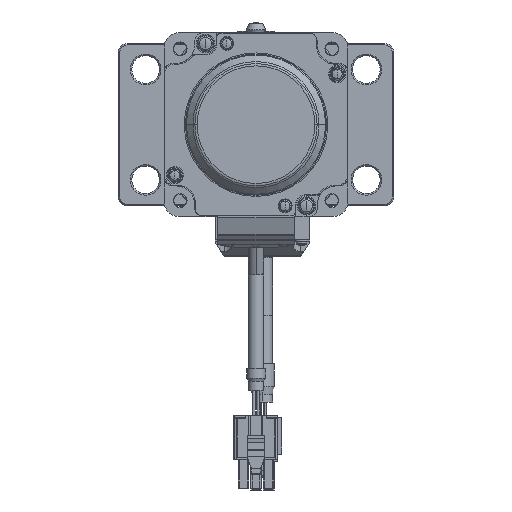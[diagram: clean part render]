
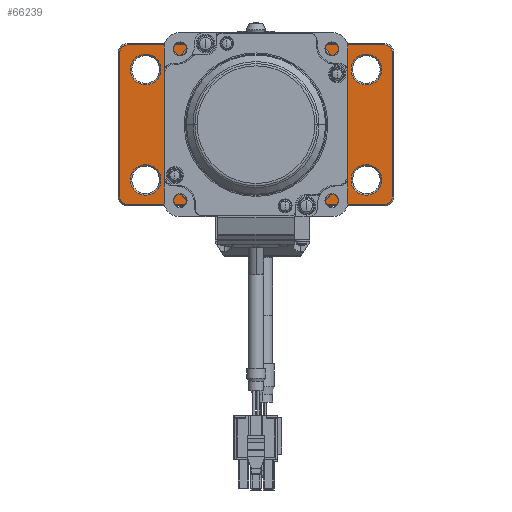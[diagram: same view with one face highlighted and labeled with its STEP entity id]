
A CAD part, front view. The second image highlights one B-rep face of the part: STEP entity #66239.
In plain terms, the highlighted planar face has unit normal (0, -1, 0).
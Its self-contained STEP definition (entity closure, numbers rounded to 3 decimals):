
#64906=CARTESIAN_POINT('',(0.,-5.,0.));
#64907=DIRECTION('',(0.,1.,0.));
#64908=DIRECTION('',(-1.,0.,0.));
#64909=AXIS2_PLACEMENT_3D('',#64906,#64907,#64908);
#64911=CARTESIAN_POINT('',(0.,-5.,0.));
#64912=DIRECTION('',(0.,1.,0.));
#64913=DIRECTION('',(1.,0.,0.));
#64914=AXIS2_PLACEMENT_3D('',#64911,#64912,#64913);
#64916=CARTESIAN_POINT('',(-36.,-5.,18.));
#64917=DIRECTION('',(0.,1.,0.));
#64918=DIRECTION('',(1.,0.,0.));
#64919=AXIS2_PLACEMENT_3D('',#64916,#64917,#64918);
#64921=CARTESIAN_POINT('',(-36.,-5.,18.));
#64922=DIRECTION('',(0.,1.,0.));
#64923=DIRECTION('',(-1.,0.,0.));
#64924=AXIS2_PLACEMENT_3D('',#64921,#64922,#64923);
#64926=CARTESIAN_POINT('',(36.,-5.,18.));
#64927=DIRECTION('',(0.,1.,0.));
#64928=DIRECTION('',(1.,0.,0.));
#64929=AXIS2_PLACEMENT_3D('',#64926,#64927,#64928);
#64931=CARTESIAN_POINT('',(36.,-5.,18.));
#64932=DIRECTION('',(0.,1.,0.));
#64933=DIRECTION('',(-1.,0.,0.));
#64934=AXIS2_PLACEMENT_3D('',#64931,#64932,#64933);
#64936=CARTESIAN_POINT('',(36.,-5.,-18.));
#64937=DIRECTION('',(0.,1.,0.));
#64938=DIRECTION('',(1.,0.,0.));
#64939=AXIS2_PLACEMENT_3D('',#64936,#64937,#64938);
#64941=CARTESIAN_POINT('',(36.,-5.,-18.));
#64942=DIRECTION('',(0.,1.,0.));
#64943=DIRECTION('',(-1.,0.,0.));
#64944=AXIS2_PLACEMENT_3D('',#64941,#64942,#64943);
#64946=CARTESIAN_POINT('',(-36.,-5.,-18.));
#64947=DIRECTION('',(0.,1.,0.));
#64948=DIRECTION('',(1.,0.,0.));
#64949=AXIS2_PLACEMENT_3D('',#64946,#64947,#64948);
#64951=CARTESIAN_POINT('',(-36.,-5.,-18.));
#64952=DIRECTION('',(0.,1.,0.));
#64953=DIRECTION('',(-1.,0.,0.));
#64954=AXIS2_PLACEMENT_3D('',#64951,#64952,#64953);
#64956=CARTESIAN_POINT('',(-42.,-5.,23.5));
#64957=DIRECTION('',(0.,-1.,0.));
#64958=DIRECTION('',(0.,0.,1.));
#64959=AXIS2_PLACEMENT_3D('',#64956,#64957,#64958);
#64961=DIRECTION('',(-1.,0.,0.));
#64962=VECTOR('',#64961,84.);
#64963=CARTESIAN_POINT('',(42.,-5.,
26.));
#64964=LINE('',#64963,#64962);
#64965=CARTESIAN_POINT('',(42.,-5.,23.5));
#64966=DIRECTION('',(0.,-1.,0.));
#64967=DIRECTION('',(1.,0.,0.));
#64968=AXIS2_PLACEMENT_3D('',#64965,#64966,#64967);
#64970=DIRECTION('',(0.,0.,1.));
#64971=VECTOR('',#64970,47.);
#64972=CARTESIAN_POINT('',(44.5,-5.,
-23.5));
#64973=LINE('',#64972,#64971);
#64974=CARTESIAN_POINT('',(42.,-5.,-23.5));
#64975=DIRECTION('',(0.,-1.,0.));
#64976=DIRECTION('',(0.,0.,-1.));
#64977=AXIS2_PLACEMENT_3D('',#64974,#64975,#64976);
#64979=DIRECTION('',(1.,0.,0.));
#64980=VECTOR('',#64979,84.);
#64981=CARTESIAN_POINT('',(-42.,-5.,
-26.));
#64982=LINE('',#64981,#64980);
#64983=CARTESIAN_POINT('',(-42.,-5.,-23.5));
#64984=DIRECTION('',(0.,-1.,0.));
#64985=DIRECTION('',(-1.,0.,0.));
#64986=AXIS2_PLACEMENT_3D('',#64983,#64984,#64985);
#64988=DIRECTION('',(0.,0.,-1.));
#64989=VECTOR('',#64988,47.);
#64990=CARTESIAN_POINT('',(-44.5,-5.,
23.5));
#64991=LINE('',#64990,#64989);
#64992=CARTESIAN_POINT('',(19.,-5.,-19.));
#64993=DIRECTION('',(0.,1.,0.));
#64994=DIRECTION('',(1.,0.,0.));
#64995=AXIS2_PLACEMENT_3D('',#64992,#64993,#64994);
#64997=CARTESIAN_POINT('',(19.,-5.,-19.));
#64998=DIRECTION('',(0.,1.,0.));
#64999=DIRECTION('',(-1.,0.,0.));
#65000=AXIS2_PLACEMENT_3D('',#64997,#64998,#64999);
#65002=CARTESIAN_POINT('',(-19.,-5.,-19.));
#65003=DIRECTION('',(0.,1.,0.));
#65004=DIRECTION('',(1.,0.,0.));
#65005=AXIS2_PLACEMENT_3D('',#65002,#65003,#65004);
#65007=CARTESIAN_POINT('',(-19.,-5.,-19.));
#65008=DIRECTION('',(0.,1.,0.));
#65009=DIRECTION('',(-1.,0.,0.));
#65010=AXIS2_PLACEMENT_3D('',#65007,#65008,#65009);
#65012=CARTESIAN_POINT('',(19.,-5.,19.));
#65013=DIRECTION('',(0.,1.,0.));
#65014=DIRECTION('',(1.,0.,0.));
#65015=AXIS2_PLACEMENT_3D('',#65012,#65013,#65014);
#65017=CARTESIAN_POINT('',(19.,-5.,19.));
#65018=DIRECTION('',(0.,1.,0.));
#65019=DIRECTION('',(-1.,0.,0.));
#65020=AXIS2_PLACEMENT_3D('',#65017,#65018,#65019);
#65022=CARTESIAN_POINT('',(-19.,-5.,19.));
#65023=DIRECTION('',(0.,1.,0.));
#65024=DIRECTION('',(1.,0.,0.));
#65025=AXIS2_PLACEMENT_3D('',#65022,#65023,#65024);
#65027=CARTESIAN_POINT('',(-19.,-5.,19.));
#65028=DIRECTION('',(0.,1.,0.));
#65029=DIRECTION('',(-1.,0.,0.));
#65030=AXIS2_PLACEMENT_3D('',#65027,#65028,#65029);
#65914=CARTESIAN_POINT('',(-18.25,-5.,0.));
#65915=CARTESIAN_POINT('',(18.25,-5.,0.));
#65916=VERTEX_POINT('',#65914);
#65917=VERTEX_POINT('',#65915);
#65954=CARTESIAN_POINT('',(-31.,-5.,18.));
#65955=CARTESIAN_POINT('',(-41.,-5.,18.));
#65956=VERTEX_POINT('',#65954);
#65957=VERTEX_POINT('',#65955);
#65962=CARTESIAN_POINT('',(41.,-5.,18.));
#65963=CARTESIAN_POINT('',(31.,-5.,18.));
#65964=VERTEX_POINT('',#65962);
#65965=VERTEX_POINT('',#65963);
#65970=CARTESIAN_POINT('',(41.,-5.,-18.));
#65971=CARTESIAN_POINT('',(31.,-5.,-18.));
#65972=VERTEX_POINT('',#65970);
#65973=VERTEX_POINT('',#65971);
#65978=CARTESIAN_POINT('',(-31.,-5.,-18.));
#65979=CARTESIAN_POINT('',(-41.,-5.,-18.));
#65980=VERTEX_POINT('',#65978);
#65981=VERTEX_POINT('',#65979);
#65986=CARTESIAN_POINT('',(-42.,-5.,26.));
#65987=CARTESIAN_POINT('',(-44.5,-5.,23.5));
#65988=VERTEX_POINT('',#65986);
#65989=VERTEX_POINT('',#65987);
#65994=CARTESIAN_POINT('',(-44.5,-5.,
-23.5));
#65995=VERTEX_POINT('',#65994);
#65998=CARTESIAN_POINT('',(-42.,-5.,-26.));
#65999=VERTEX_POINT('',#65998);
#66002=CARTESIAN_POINT('',(42.,-5.,
-26.));
#66003=VERTEX_POINT('',#66002);
#66006=CARTESIAN_POINT('',(44.5,-5.,-23.5));
#66007=VERTEX_POINT('',#66006);
#66010=CARTESIAN_POINT('',(44.5,-5.,
23.5));
#66011=VERTEX_POINT('',#66010);
#66014=CARTESIAN_POINT('',(42.,-5.,26.));
#66015=VERTEX_POINT('',#66014);
#66066=CARTESIAN_POINT('',(22.8,-5.,-19.));
#66067=CARTESIAN_POINT('',(15.2,-5.,-19.));
#66068=VERTEX_POINT('',#66066);
#66069=VERTEX_POINT('',#66067);
#66074=CARTESIAN_POINT('',(-15.2,-5.,-19.));
#66075=CARTESIAN_POINT('',(-22.8,-5.,-19.));
#66076=VERTEX_POINT('',#66074);
#66077=VERTEX_POINT('',#66075);
#66082=CARTESIAN_POINT('',(22.8,-5.,19.));
#66083=CARTESIAN_POINT('',(15.2,-5.,19.));
#66084=VERTEX_POINT('',#66082);
#66085=VERTEX_POINT('',#66083);
#66090=CARTESIAN_POINT('',(-15.2,-5.,19.));
#66091=CARTESIAN_POINT('',(-22.8,-5.,19.));
#66092=VERTEX_POINT('',#66090);
#66093=VERTEX_POINT('',#66091);
#66162=CARTESIAN_POINT('',(0.,-5.,0.));
#66163=DIRECTION('',(0.,1.,0.));
#66164=DIRECTION('',(1.,0.,0.));
#66165=AXIS2_PLACEMENT_3D('',#66162,#66163,#66164);
#66166=PLANE('',#66165);
#66168=ORIENTED_EDGE('',*,*,#66167,.F.);
#66170=ORIENTED_EDGE('',*,*,#66169,.F.);
#66172=ORIENTED_EDGE('',*,*,#66171,.F.);
#66174=ORIENTED_EDGE('',*,*,#66173,.F.);
#66176=ORIENTED_EDGE('',*,*,#66175,.F.);
#66178=ORIENTED_EDGE('',*,*,#66177,.F.);
#66180=ORIENTED_EDGE('',*,*,#66179,.F.);
#66182=ORIENTED_EDGE('',*,*,#66181,.F.);
#66183=EDGE_LOOP('',(#66168,#66170,#66172,#66174,#66176,#66178,#66180,#66182));
#66184=FACE_OUTER_BOUND('',#66183,.F.);
#66186=ORIENTED_EDGE('',*,*,#66185,.F.);
#66188=ORIENTED_EDGE('',*,*,#66187,.F.);
#66189=EDGE_LOOP('',(#66186,#66188));
#66190=FACE_BOUND('',#66189,.F.);
#66192=ORIENTED_EDGE('',*,*,#66191,.F.);
#66194=ORIENTED_EDGE('',*,*,#66193,.F.);
#66195=EDGE_LOOP('',(#66192,#66194));
#66196=FACE_BOUND('',#66195,.F.);
#66198=ORIENTED_EDGE('',*,*,#66197,.F.);
#66200=ORIENTED_EDGE('',*,*,#66199,.F.);
#66201=EDGE_LOOP('',(#66198,#66200));
#66202=FACE_BOUND('',#66201,.F.);
#66204=ORIENTED_EDGE('',*,*,#66203,.F.);
#66206=ORIENTED_EDGE('',*,*,#66205,.F.);
#66207=EDGE_LOOP('',(#66204,#66206));
#66208=FACE_BOUND('',#66207,.F.);
#66210=ORIENTED_EDGE('',*,*,#66209,.F.);
#66212=ORIENTED_EDGE('',*,*,#66211,.F.);
#66213=EDGE_LOOP('',(#66210,#66212));
#66214=FACE_BOUND('',#66213,.F.);
#66216=ORIENTED_EDGE('',*,*,#66215,.F.);
#66218=ORIENTED_EDGE('',*,*,#66217,.F.);
#66219=EDGE_LOOP('',(#66216,#66218));
#66220=FACE_BOUND('',#66219,.F.);
#66222=ORIENTED_EDGE('',*,*,#66221,.F.);
#66224=ORIENTED_EDGE('',*,*,#66223,.F.);
#66225=EDGE_LOOP('',(#66222,#66224));
#66226=FACE_BOUND('',#66225,.F.);
#66228=ORIENTED_EDGE('',*,*,#66227,.F.);
#66230=ORIENTED_EDGE('',*,*,#66229,.F.);
#66231=EDGE_LOOP('',(#66228,#66230));
#66232=FACE_BOUND('',#66231,.F.);
#66234=ORIENTED_EDGE('',*,*,#66233,.F.);
#66236=ORIENTED_EDGE('',*,*,#66235,.F.);
#66237=EDGE_LOOP('',(#66234,#66236));
#66238=FACE_BOUND('',#66237,.F.);
#66239=ADVANCED_FACE('',(#66184,#66190,#66196,#66202,#66208,#66214,#66220,
#66226,#66232,#66238),#66166,.F.);
#64910=CIRCLE('',#64909,18.25);
#64915=CIRCLE('',#64914,18.25);
#64920=CIRCLE('',#64919,5.);
#64925=CIRCLE('',#64924,5.);
#64930=CIRCLE('',#64929,5.);
#64935=CIRCLE('',#64934,5.);
#64940=CIRCLE('',#64939,5.);
#64945=CIRCLE('',#64944,5.);
#64950=CIRCLE('',#64949,5.);
#64955=CIRCLE('',#64954,5.);
#64960=CIRCLE('',#64959,2.5);
#64969=CIRCLE('',#64968,2.5);
#64978=CIRCLE('',#64977,2.5);
#64987=CIRCLE('',#64986,2.5);
#64996=CIRCLE('',#64995,3.8);
#65001=CIRCLE('',#65000,3.8);
#65006=CIRCLE('',#65005,3.8);
#65011=CIRCLE('',#65010,3.8);
#65016=CIRCLE('',#65015,3.8);
#65021=CIRCLE('',#65020,3.8);
#65026=CIRCLE('',#65025,3.8);
#65031=CIRCLE('',#65030,3.8);
#66167=EDGE_CURVE('',#65988,#65989,#64960,.T.);
#66169=EDGE_CURVE('',#66015,#65988,#64964,.T.);
#66171=EDGE_CURVE('',#66011,#66015,#64969,.T.);
#66173=EDGE_CURVE('',#66007,#66011,#64973,.T.);
#66175=EDGE_CURVE('',#66003,#66007,#64978,.T.);
#66177=EDGE_CURVE('',#65999,#66003,#64982,.T.);
#66179=EDGE_CURVE('',#65995,#65999,#64987,.T.);
#66181=EDGE_CURVE('',#65989,#65995,#64991,.T.);
#66185=EDGE_CURVE('',#65956,#65957,#64920,.T.);
#66187=EDGE_CURVE('',#65957,#65956,#64925,.T.);
#66191=EDGE_CURVE('',#65964,#65965,#64930,.T.);
#66193=EDGE_CURVE('',#65965,#65964,#64935,.T.);
#66197=EDGE_CURVE('',#65972,#65973,#64940,.T.);
#66199=EDGE_CURVE('',#65973,#65972,#64945,.T.);
#66203=EDGE_CURVE('',#65980,#65981,#64950,.T.);
#66205=EDGE_CURVE('',#65981,#65980,#64955,.T.);
#66209=EDGE_CURVE('',#65916,#65917,#64910,.T.);
#66211=EDGE_CURVE('',#65917,#65916,#64915,.T.);
#66215=EDGE_CURVE('',#66068,#66069,#64996,.T.);
#66217=EDGE_CURVE('',#66069,#66068,#65001,.T.);
#66221=EDGE_CURVE('',#66076,#66077,#65006,.T.);
#66223=EDGE_CURVE('',#66077,#66076,#65011,.T.);
#66227=EDGE_CURVE('',#66084,#66085,#65016,.T.);
#66229=EDGE_CURVE('',#66085,#66084,#65021,.T.);
#66233=EDGE_CURVE('',#66092,#66093,#65026,.T.);
#66235=EDGE_CURVE('',#66093,#66092,#65031,.T.);
